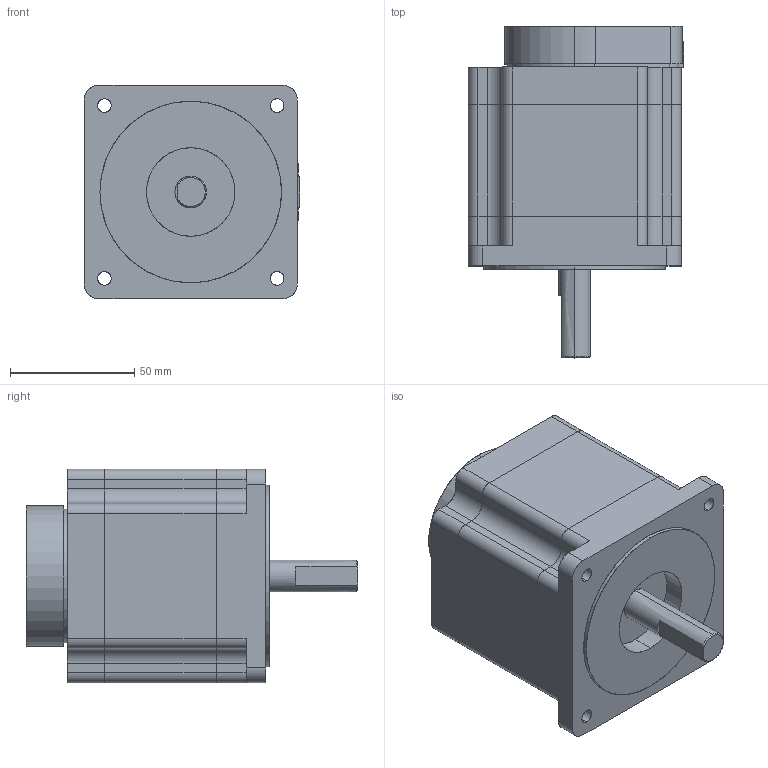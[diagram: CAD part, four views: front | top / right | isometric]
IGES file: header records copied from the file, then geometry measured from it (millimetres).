
Start section: SolidWorks IGES file using analytic representation for surfaces
Global section: file name: C:\Users\Christine\Documents\Arcus\Project #21\STM-34-2-1-E100\STM-34-2-1-E100.IGS; native system: SolidWorks 2008; preprocessor: SolidWorks 2008; author: Christine; date: 131106.221818; units: millimetre
Bounding box: 86.87 x 133.51 x 85.85 mm (x, y, z)
Surface area: 86079.1 mm2 (no closed solid volume)
Topology: 0 solids, 0 shells, 216 faces, 3495 edges, 3483 vertices
Faces by surface type: revolution 123, bspline 93
